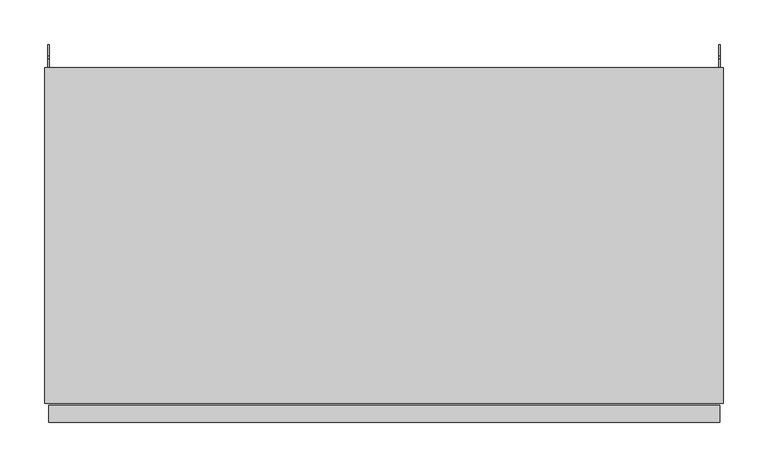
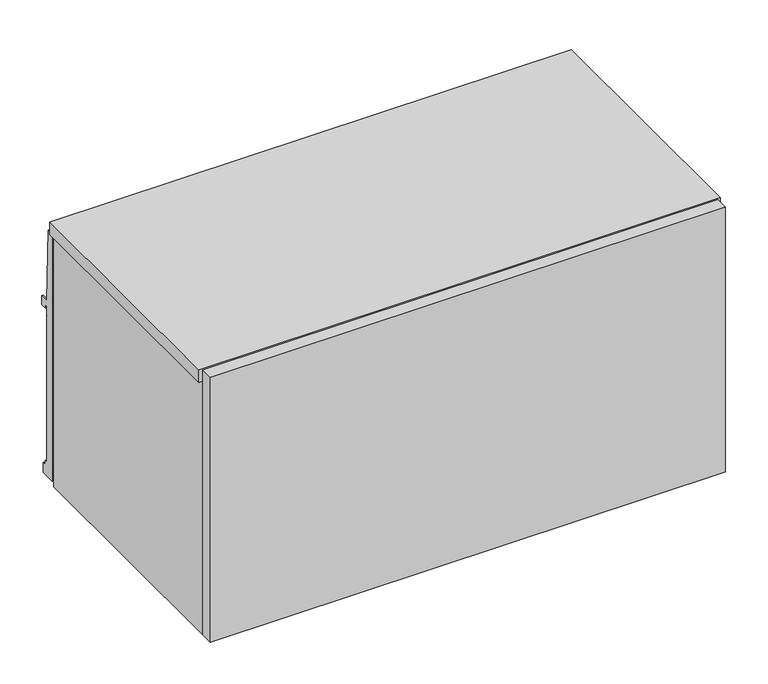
"""IFC4 building model written with IfcOpenShell, lengths in millimetres: furniture geometry, Steelcase - Universal Storage - Over the Case Bin - Flat Front : For Montage - 30W."""

from ifc_helpers import new_model, si_unit, frame, origin, place, context, project, spatial, polyline, outline, extrude, source, transform, mapped, element, save


def furniture_2e6522a5(model_context):
    return source(origin(), model_context, "Body", "SweptSolid", [
        extrude(outline(polyline([(4.4448587, -379.476), (757.5703, -379.476), (757.5703, -398.526), (4.4448587, -398.526), (4.4448587, -379.476)])), frame((0.0, 0.0, 1266.8226746), z_axis=(0.0, 0.0, 1.0), x_axis=(1.0, 0.0, 0.0)), (0.0, 0.0, 1.0), 409.5773254),
        extrude(outline(polyline([(0.0, 1657.096), (10.1677703, 1657.096), (13.3857995, 1545.8185744), (26.0095997, 1545.8185744), (26.0095997, 1532.1025512), (17.5768, 1532.1025512), (17.5768, 1537.1064608), (13.3349998, 1537.1064608), (13.3349998, 1522.6538546), (14.2747998, 1522.6538546), (14.2747998, 1296.0858527), (17.2466001, 1296.0858527), (17.2466001, 1289.7358043), (22.5806007, 1289.7358043), (22.5806007, 1274.2164027), (0.0, 1274.2164027), (0.0, 1657.096)])), frame((756.4882, 0.0, 0.0), z_axis=(1.0, 0.0, 0.0), x_axis=(0.0, 1.0, 0.0)), (0.0, 0.0, 1.0), 1.905),
        extrude(outline(polyline([(762.0, -377.213238), (0.0, -377.213238), (0.0, 0.0), (762.0, 0.0), (762.0, -377.213238)])), frame((0.0, 0.0, 1657.35), z_axis=(0.0, 0.0, 1.0), x_axis=(1.0, 0.0, 0.0)), (0.0, 0.0, 1.0), 19.05),
        extrude(outline(polyline([(15.875, -377.213238), (5.5118, -377.213238), (5.5118, 0.0), (15.875, 0.0), (15.875, -377.213238)])), frame((0.0, 0.0, 1265.428), z_axis=(0.0, 0.0, 1.0), x_axis=(1.0, 0.0, 0.0)), (0.0, 0.0, 1.0), 391.6679457),
        extrude(outline(polyline([(760.8568665, -377.213238), (746.125, -377.213238), (746.125, 0.0), (760.8568665, 0.0), (760.8568665, -377.213238)])), frame((0.0, 0.0, 1265.428), z_axis=(0.0, 0.0, 1.0), x_axis=(1.0, 0.0, 0.0)), (0.0, 0.0, 1.0), 391.6679457),
        extrude(outline(polyline([(0.0, 1657.096), (10.1677703, 1657.096), (13.3857995, 1545.8185744), (26.0095997, 1545.8185744), (26.0095997, 1532.1025512), (17.5768, 1532.1025512), (17.5768, 1537.1064608), (13.3349998, 1537.1064608), (13.3349998, 1522.6538546), (14.2747998, 1522.6538546), (14.2747998, 1296.0858527), (17.2466001, 1296.0858527), (17.2466001, 1289.7358043), (22.5806007, 1289.7358043), (22.5806007, 1274.2164027), (0.0, 1274.2164027), (0.0, 1657.096)])), frame((3.6068, 0.0, 0.0), z_axis=(1.0, 0.0, 0.0), x_axis=(0.0, 1.0, 0.0)), (0.0, 0.0, 1.0), 1.905),
        extrude(outline(polyline([(-35.4584098, 1372.819257), (-27.0763996, 1372.819257), (-27.0763996, 1360.1191601), (-33.4264117, 1360.1191601), (-33.4264117, 1323.1622589), (-27.0763996, 1323.1622589), (-27.0763996, 1265.428), (-35.4584098, 1265.428), (-35.4584098, 1293.054213), (-46.1263996, 1293.054213), (-46.1263996, 1268.1875622), (-59.9694137, 1268.1875622), (-59.9694137, 1294.8575912), (-332.8542818, 1294.8575912), (-332.8542818, 1268.1875622), (-377.3042823, 1268.1875622), (-377.3042823, 1310.7072052), (-35.4584098, 1310.7072052), (-35.4584098, 1372.819257)])), frame((15.875, 0.0, 0.0), z_axis=(1.0, 0.0, 0.0), x_axis=(0.0, 1.0, 0.0)), (0.0, 0.0, 1.0), 730.25),
    ])


if __name__ == "__main__":
    model = new_model("IFC4")
    model_context = context("Model", 3, world=origin())
    ifc_project = project(units=[si_unit("LENGTHUNIT", "METRE", prefix="MILLI")], contexts=[model_context])
    site = spatial("IfcSite", under=ifc_project)
    building = spatial("IfcBuilding", under=site)
    placement = place(None, origin())
    furniture_shape = furniture_2e6522a5(model_context)
    element("IfcFurniture", 1, ObjectType="Steelcase - Universal Storage - Over the Case Bin - Flat Front : For Montage - 30W", at=placement, inside=building, context=model_context, shape_type="MappedRepresentation", body=[
        mapped(furniture_shape, transform((0.0, 0.0, 0.0), x_axis=(1.0, 0.0, 0.0), y_axis=(0.0, 1.0, 0.0), z_axis=(0.0, 0.0, 1.0))),
    ])
    save(model, "model.ifc")
